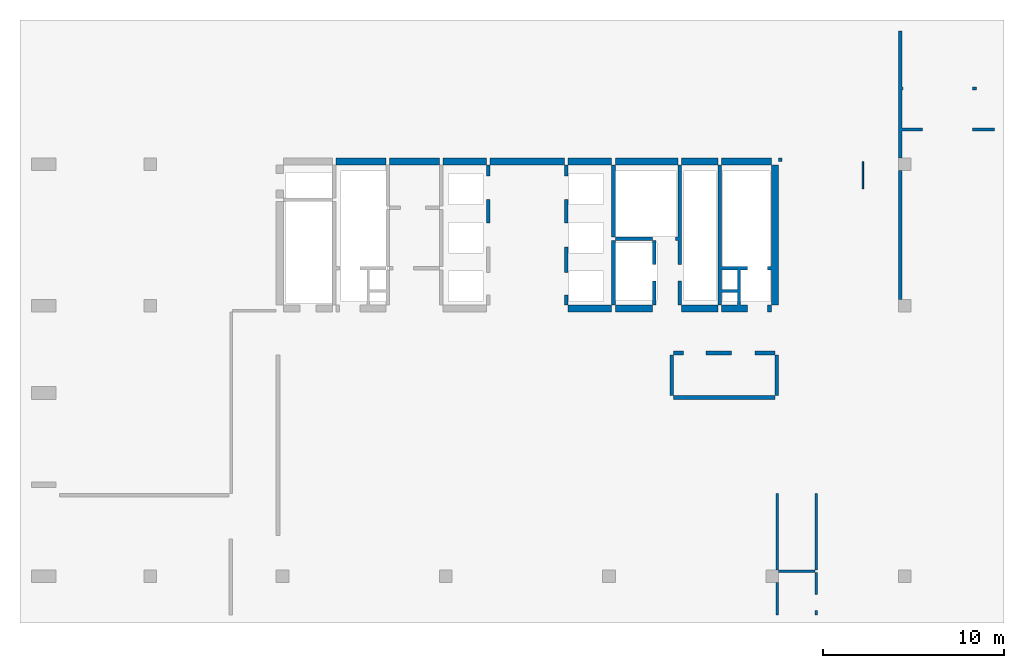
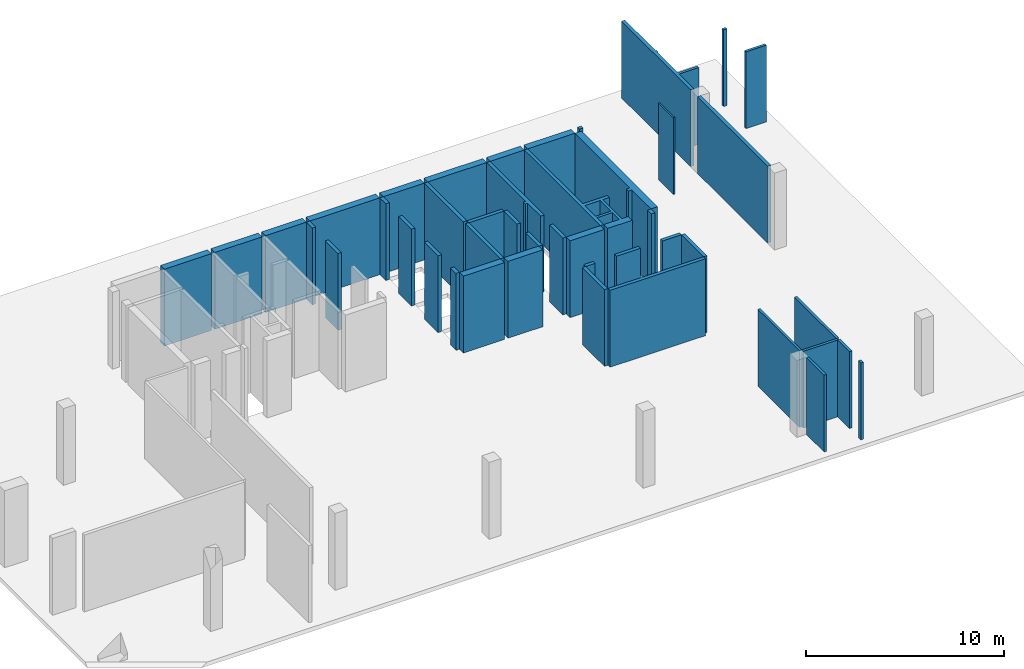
# One storey, part 2 of 2: 45 walls.
"""IFC4 building model written with IfcOpenShell, lengths in millimetres."""

from ifc_helpers import new_model, si_unit, frame, origin, place, context, project, spatial, triangles, element, save


model = new_model("IFC4")

# Units and contexts
model_context = context("Model", 3, precision=0.001, world=origin())
ifc_project = project(units=[si_unit("LENGTHUNIT", "METRE", prefix="MILLI"), si_unit("AREAUNIT", "SQUARE_METRE"), si_unit("VOLUMEUNIT", "CUBIC_METRE")], contexts=[model_context])

# Site, building, storey
site_placement = place(None, origin())
site = spatial("IfcSite", under=ifc_project, at=site_placement, Name="Site", CompositionType="ELEMENT")
building_placement = place(site_placement, origin())
building = spatial("IfcBuilding", under=site, at=building_placement, Name="INNOCEAN", CompositionType="ELEMENT")
storey_placement = place(building_placement, frame((0.0, 0.0, -5000.0)))
storey = spatial("IfcBuildingStorey", under=building, at=storey_placement, Name="B1", CompositionType="ELEMENT", Elevation=-5000.0)

# Walls
wall_1_placement = place(storey_placement, origin())
element("IfcWall", 1, at=wall_1_placement, inside=storey, Name="B1_Walls_B1_019", context=model_context, shape_type="Tessellation", body=[
    triangles([(19183.7, 25025.8, 0.0), (19183.7, 25419.5, 0.0), (19183.7, 25419.5, 4750.0), (19183.7, 25025.8, 4750.0), (16429.3, 25025.8, 4750.0), (16429.3, 25025.8, 0.0), (16429.3, 25419.5, 0.0), (16429.3, 25419.5, 4750.0)], [[1, 2, 3], [1, 3, 4], [1, 4, 5], [6, 1, 5], [7, 6, 5], [7, 5, 8], [7, 8, 3], [2, 7, 3], [7, 2, 1], [7, 1, 6], [3, 8, 4], [4, 8, 5]], closed=True),
])
wall_2_placement = place(storey_placement, origin())
element("IfcWall", 2, at=wall_2_placement, inside=storey, Name="B1_Walls_B1_021", context=model_context, shape_type="Tessellation", body=[
    triangles([(31623.1, 16922.4, 0.0), (31623.1, 17316.1, 0.0), (31623.1, 17316.1, 4750.0), (31623.1, 16922.4, 4750.0), (29224.0, 16922.4, 0.0), (29224.0, 16922.4, 4750.0), (29224.0, 17316.1, 0.0), (29224.0, 17316.1, 4750.0)], [[1, 2, 3], [1, 3, 4], [5, 1, 4], [5, 4, 6], [7, 5, 6], [7, 6, 8], [2, 7, 8], [2, 8, 3], [7, 2, 1], [7, 1, 5], [3, 8, 4], [4, 8, 6]], closed=True),
])
wall_3_placement = place(storey_placement, origin())
element("IfcWall", 3, at=wall_3_placement, inside=storey, Name="B1_Walls_B1_023", context=model_context, shape_type="Tessellation", body=[
    triangles([(29224.0, 17875.0, 0.0), (29224.0, 17875.0, 4750.0), (29224.0, 17316.1, 4750.0), (29224.0, 17316.1, 0.0), (29020.9, 17316.1, 0.0), (29020.9, 17316.1, 4750.0), (29020.9, 17875.0, 4750.0), (29020.9, 17875.0, 0.0)], [[1, 2, 3], [4, 1, 3], [5, 4, 3], [5, 3, 6], [5, 6, 7], [8, 5, 7], [1, 8, 7], [1, 7, 2], [8, 1, 4], [8, 4, 5], [2, 7, 3], [3, 7, 6]], closed=True),
])
wall_4_placement = place(storey_placement, origin())
element("IfcWall", 4, at=wall_4_placement, inside=storey, Name="B1_Walls_B1_028", context=model_context, shape_type="Tessellation", body=[
    triangles([(29020.0, 20515.0, 0.0), (29020.0, 19120.0, 0.0), (29020.0, 19120.0, 4750.0), (29020.0, 20515.0, 4750.0), (29020.9, 20515.0, 0.0), (29020.9, 20515.0, 4750.0), (29020.9, 20516.8, 4750.0), (29020.9, 20516.8, 0.0), (29224.0, 20516.8, 0.0), (29224.0, 20516.8, 4750.0), (29224.0, 20515.0, 4750.0), (29224.0, 20515.0, 0.0), (29225.0, 20515.0, 0.0), (29225.0, 20515.0, 4750.0), (29225.0, 19120.0, 0.0), (29225.0, 19120.0, 4750.0), (29224.0, 19120.0, 0.0), (29224.0, 19120.0, 4750.0), (29224.0, 19119.7, 0.0), (29224.0, 19119.7, 4750.0), (29020.9, 19119.7, 0.0), (29020.9, 19119.7, 4750.0), (29020.9, 19120.0, 0.0), (29020.9, 19120.0, 4750.0)], [[1, 2, 3], [1, 3, 4], [5, 1, 4], [5, 4, 6], [5, 6, 7], [8, 5, 7], [9, 8, 7], [9, 7, 10], [9, 10, 11], [12, 9, 11], [13, 12, 11], [13, 11, 14], [15, 13, 14], [15, 14, 16], [17, 15, 16], [17, 16, 18], [19, 17, 18], [19, 18, 20], [21, 19, 20], [21, 20, 22], [23, 21, 22], [23, 22, 24], [2, 23, 24], [2, 24, 3], [23, 17, 19], [23, 19, 21], [12, 13, 15], [12, 15, 17], [12, 17, 23], [5, 12, 23], [1, 23, 2], [1, 5, 23], [8, 9, 12], [8, 12, 5], [18, 24, 20], [20, 24, 22], [14, 11, 16], [16, 11, 18], [18, 11, 24], [11, 6, 24], [24, 4, 3], [6, 4, 24], [10, 7, 11], [11, 7, 6]], closed=True),
])
wall_5_placement = place(storey_placement, origin())
element("IfcWall", 5, at=wall_5_placement, inside=storey, Name="B1_Walls_B1_030", context=model_context, shape_type="Tessellation", body=[
    triangles([(24920.0, 21825.1, 0.0), (24921.0, 21825.1, 0.0), (24921.0, 21825.1, 4750.0), (24920.0, 21825.1, 4750.0), (24920.0, 21825.0, 0.0), (24920.0, 21825.0, 4750.0), (24730.0, 21825.0, 0.0), (24730.0, 21825.0, 4750.0), (24730.0, 23120.0, 0.0), (24730.0, 23120.0, 4750.0), (24730.6, 23120.0, 0.0), (24730.6, 23120.0, 4750.0), (24730.6, 23120.6, 0.0), (24730.6, 23120.6, 4750.0), (24921.0, 23120.6, 0.0), (24921.0, 23120.6, 4750.0)], [[1, 2, 3], [1, 3, 4], [5, 1, 4], [5, 4, 6], [7, 5, 6], [7, 6, 8], [9, 7, 8], [9, 8, 10], [11, 9, 10], [11, 10, 12], [13, 11, 12], [13, 12, 14], [15, 13, 14], [15, 14, 16], [15, 16, 3], [2, 15, 3], [7, 1, 5], [15, 2, 1], [11, 15, 1], [11, 1, 7], [9, 11, 7], [13, 15, 11], [4, 8, 6], [3, 16, 4], [16, 12, 4], [4, 12, 8], [12, 10, 8], [16, 14, 12]], closed=True),
])
wall_6_placement = place(storey_placement, origin())
element("IfcWall", 6, at=wall_6_placement, inside=storey, Name="B1_Walls_B1_031", context=model_context, shape_type="Tessellation", body=[
    triangles([(29225.0, 21825.0, 0.0), (29225.0, 23120.0, 0.0), (29225.0, 23120.0, 4750.0), (29225.0, 21825.0, 4750.0), (29020.0, 21825.0, 0.0), (29020.0, 21825.0, 4750.0), (29020.0, 23120.0, 0.0), (29020.0, 23120.0, 4750.0), (29020.9, 23120.0, 0.0), (29020.9, 23120.0, 4750.0), (29020.9, 23120.6, 0.0), (29020.9, 23120.6, 4750.0), (29224.0, 23120.6, 0.0), (29224.0, 23120.6, 4750.0), (29224.0, 23120.0, 0.0), (29224.0, 23120.0, 4750.0)], [[1, 2, 3], [1, 3, 4], [5, 1, 4], [5, 4, 6], [7, 5, 6], [7, 6, 8], [9, 7, 8], [9, 8, 10], [11, 9, 10], [11, 10, 12], [13, 11, 12], [13, 12, 14], [15, 13, 14], [15, 14, 16], [2, 15, 16], [2, 16, 3], [15, 2, 1], [15, 1, 5], [9, 15, 5], [11, 13, 15], [11, 15, 9], [7, 9, 5], [3, 16, 4], [4, 16, 6], [16, 10, 6], [14, 12, 16], [16, 12, 10], [10, 8, 6]], closed=True),
])
wall_7_placement = place(storey_placement, origin())
element("IfcWall", 7, at=wall_7_placement, inside=storey, Name="B1_Walls_B1_036", context=model_context, shape_type="Tessellation", body=[
    triangles([(24921.0, 24416.1, 0.0), (24921.0, 25025.8, 0.0), (24921.0, 25025.8, 4750.0), (24921.0, 24416.1, 4750.0), (24730.6, 24416.1, 0.0), (24730.6, 24416.1, 4750.0), (24730.6, 25025.8, 0.0), (24730.6, 25025.8, 4750.0)], [[1, 2, 3], [1, 3, 4], [5, 1, 4], [5, 4, 6], [7, 5, 6], [7, 6, 8], [2, 7, 8], [2, 8, 3], [7, 2, 1], [7, 1, 5], [3, 8, 4], [4, 8, 6]], closed=True),
])
wall_8_placement = place(storey_placement, origin())
element("IfcWall", 8, at=wall_8_placement, inside=storey, Name="B1_Walls_B1_037", context=model_context, shape_type="Tessellation", body=[
    triangles([(29224.0, 24416.1, 0.0), (29224.0, 25025.8, 0.0), (29224.0, 25025.8, 4750.0), (29224.0, 24416.1, 4750.0), (29020.9, 24416.1, 0.0), (29020.9, 24416.1, 4750.0), (29020.9, 25025.8, 0.0), (29020.9, 25025.8, 4750.0)], [[1, 2, 3], [1, 3, 4], [5, 1, 4], [5, 4, 6], [7, 5, 6], [7, 6, 8], [2, 7, 8], [2, 8, 3], [7, 2, 1], [7, 1, 5], [3, 8, 4], [4, 8, 6]], closed=True),
])
wall_9_placement = place(storey_placement, origin())
element("IfcWall", 9, at=wall_9_placement, inside=storey, Name="B1_Walls_B1_038", context=model_context, shape_type="Tessellation", body=[
    triangles([(22128.5, 25025.8, 0.0), (22128.5, 25419.5, 0.0), (22128.5, 25419.5, 4750.0), (22128.5, 25025.8, 4750.0), (19374.1, 25025.8, 4750.0), (19374.1, 25025.8, 0.0), (19374.1, 25419.5, 0.0), (19374.1, 25419.5, 4750.0)], [[1, 2, 3], [1, 3, 4], [1, 4, 5], [6, 1, 5], [7, 6, 5], [7, 5, 8], [7, 8, 3], [2, 7, 3], [7, 2, 1], [7, 1, 6], [3, 8, 4], [4, 8, 5]], closed=True),
])
wall_10_placement = place(storey_placement, origin())
element("IfcWall", 10, at=wall_10_placement, inside=storey, Name="B1_Walls_B1_039", context=model_context, shape_type="Tessellation", body=[
    triangles([(24730.6, 25025.8, 0.0), (24730.6, 25419.5, 0.0), (24730.6, 25419.5, 4750.0), (24730.6, 25025.8, 4750.0), (22331.6, 25025.8, 0.0), (22331.6, 25025.8, 4750.0), (22331.6, 25419.5, 0.0), (22331.6, 25419.5, 4750.0)], [[1, 2, 3], [1, 3, 4], [5, 1, 4], [5, 4, 6], [7, 5, 6], [7, 6, 8], [2, 7, 8], [2, 8, 3], [7, 2, 1], [7, 1, 5], [3, 8, 4], [4, 8, 6]], closed=True),
])
wall_11_placement = place(storey_placement, origin())
element("IfcWall", 11, at=wall_11_placement, inside=storey, Name="B1_Walls_B1_040", context=model_context, shape_type="Tessellation", body=[
    triangles([(29020.9, 25025.8, 0.0), (29020.9, 25419.5, 0.0), (29020.9, 25419.5, 4750.0), (29020.9, 25025.8, 4750.0), (24921.0, 25025.8, 0.0), (24921.0, 25025.8, 4750.0), (24921.0, 25419.5, 0.0), (24921.0, 25419.5, 4750.0)], [[1, 2, 3], [1, 3, 4], [5, 1, 4], [5, 4, 6], [7, 5, 6], [7, 6, 8], [2, 7, 8], [2, 8, 3], [7, 2, 1], [7, 1, 5], [3, 8, 4], [4, 8, 6]], closed=True),
])
wall_12_placement = place(storey_placement, origin())
element("IfcWall", 12, at=wall_12_placement, inside=storey, Name="B1_Walls_B1_041", context=model_context, shape_type="Tessellation", body=[
    triangles([(31623.1, 25025.8, 0.0), (31623.1, 25419.5, 0.0), (31623.1, 25419.5, 4750.0), (31623.1, 25025.8, 4750.0), (29224.0, 25025.8, 0.0), (29224.0, 25025.8, 4750.0), (29224.0, 25419.5, 0.0), (29224.0, 25419.5, 4750.0)], [[1, 2, 3], [1, 3, 4], [5, 1, 4], [5, 4, 6], [7, 5, 6], [7, 6, 8], [2, 7, 8], [2, 8, 3], [7, 2, 1], [7, 1, 5], [3, 8, 4], [4, 8, 6]], closed=True),
])
wall_13_placement = place(storey_placement, origin())
element("IfcWall", 13, at=wall_13_placement, inside=storey, Name="B1_Walls_B1_042", context=model_context, shape_type="Tessellation", body=[
    triangles([(35024.8, 12121.3, 0.0), (40622.6, 12121.3, 0.0), (40622.6, 12121.3, 4750.0), (35024.8, 12121.3, 4750.0), (35024.8, 12324.5, 4750.0), (35024.8, 12324.5, 0.0), (40622.6, 12324.5, 0.0), (40622.6, 12324.5, 4750.0)], [[1, 2, 3], [1, 3, 4], [1, 4, 5], [6, 1, 5], [7, 6, 5], [7, 5, 8], [7, 8, 3], [2, 7, 3], [6, 2, 1], [6, 7, 2], [3, 5, 4], [8, 5, 3]], closed=True),
])
wall_14_placement = place(storey_placement, origin())
element("IfcWall", 14, at=wall_14_placement, inside=storey, Name="B1_Walls_B1_043", context=model_context, shape_type="Tessellation", body=[
    triangles([(35024.8, 14572.6, 0.0), (34821.8, 14572.6, 0.0), (34821.8, 14572.6, 4750.0), (35024.8, 14572.6, 4750.0), (35024.8, 12324.5, 0.0), (35024.8, 12324.5, 4750.0), (34821.8, 12324.5, 0.0), (34821.8, 12324.5, 4750.0)], [[1, 2, 3], [1, 3, 4], [5, 1, 4], [5, 4, 6], [7, 5, 6], [7, 6, 8], [2, 7, 8], [2, 8, 3], [2, 1, 5], [2, 5, 7], [4, 3, 6], [6, 3, 8]], closed=True),
])
wall_15_placement = place(storey_placement, origin())
element("IfcWall", 15, at=wall_15_placement, inside=storey, Name="B1_Walls_B1_044", context=model_context, shape_type="Tessellation", body=[
    triangles([(35570.7, 14775.8, 0.0), (35024.8, 14775.8, 0.0), (35024.8, 14775.8, 4750.0), (35570.7, 14775.8, 4750.0), (35570.7, 14572.6, 0.0), (35570.7, 14572.6, 4750.0), (35024.8, 14572.6, 0.0), (35024.8, 14572.6, 4750.0)], [[1, 2, 3], [1, 3, 4], [5, 1, 4], [5, 4, 6], [7, 5, 6], [7, 6, 8], [2, 7, 8], [2, 8, 3], [2, 1, 5], [2, 5, 7], [4, 3, 6], [6, 3, 8]], closed=True),
])
wall_16_placement = place(storey_placement, origin())
element("IfcWall", 16, at=wall_16_placement, inside=storey, Name="B1_Walls_B1_045", context=model_context, shape_type="Tessellation", body=[
    triangles([(38223.5, 14575.0, 0.0), (38225.0, 14575.0, 0.0), (38225.0, 14575.0, 4750.0), (38223.5, 14575.0, 4750.0), (38223.5, 14572.6, 4750.0), (38223.5, 14572.6, 0.0), (36814.6, 14572.6, 0.0), (36814.6, 14572.6, 4750.0), (36814.6, 14775.8, 0.0), (36814.6, 14775.8, 4750.0), (38223.5, 14775.8, 0.0), (38223.5, 14775.8, 4750.0), (38223.5, 14775.0, 0.0), (38223.5, 14775.0, 4750.0), (38225.0, 14775.0, 0.0), (38225.0, 14775.0, 4750.0)], [[1, 2, 3], [1, 3, 4], [1, 4, 5], [6, 1, 5], [7, 6, 5], [7, 5, 8], [9, 7, 8], [9, 8, 10], [11, 9, 10], [11, 10, 12], [13, 11, 12], [13, 12, 14], [15, 13, 14], [15, 14, 16], [2, 15, 16], [2, 16, 3], [13, 2, 1], [13, 15, 2], [7, 1, 6], [9, 11, 13], [9, 13, 1], [9, 1, 7], [3, 14, 4], [16, 14, 3], [4, 8, 5], [12, 10, 14], [14, 10, 4], [4, 10, 8]], closed=True),
])
wall_17_placement = place(storey_placement, origin())
element("IfcWall", 17, at=wall_17_placement, inside=storey, Name="B1_Walls_B1_046", context=model_context, shape_type="Tessellation", body=[
    triangles([(33869.8, 17316.1, 0.0), (31826.2, 17316.1, 0.0), (31826.2, 17316.1, 4750.0), (33869.8, 17316.1, 4750.0), (33869.8, 16922.4, 0.0), (33869.8, 16922.4, 4750.0), (31826.2, 16922.4, 0.0), (31826.2, 16922.4, 4750.0)], [[1, 2, 3], [1, 3, 4], [5, 1, 4], [5, 4, 6], [7, 5, 6], [7, 6, 8], [2, 7, 8], [2, 8, 3], [2, 1, 5], [2, 5, 7], [4, 3, 6], [6, 3, 8]], closed=True),
])
wall_18_placement = place(storey_placement, origin())
element("IfcWall", 18, at=wall_18_placement, inside=storey, Name="B1_Walls_B1_047", context=model_context, shape_type="Tessellation", body=[
    triangles([(37474.6, 16922.4, 0.0), (37474.6, 17316.1, 0.0), (37474.6, 17316.1, 4750.0), (37474.6, 16922.4, 4750.0), (35469.1, 16922.4, 0.0), (35469.1, 16922.4, 4750.0), (35469.1, 17316.1, 0.0), (35469.1, 17316.1, 4750.0)], [[1, 2, 3], [1, 3, 4], [5, 1, 4], [5, 4, 6], [7, 5, 6], [7, 6, 8], [2, 7, 8], [2, 8, 3], [7, 2, 1], [7, 1, 5], [3, 8, 4], [4, 8, 6]], closed=True),
])
wall_19_placement = place(storey_placement, origin())
element("IfcWall", 19, at=wall_19_placement, inside=storey, Name="B1_Walls_B1_048", context=model_context, shape_type="Tessellation", body=[
    triangles([(37665.0, 17316.1, 0.0), (37665.0, 16922.4, 0.0), (37665.0, 16922.4, 4750.0), (37665.0, 17316.1, 4750.0), (39099.4, 16922.4, 0.0), (39099.4, 16922.4, 4750.0), (39099.4, 17316.1, 0.0), (39099.4, 17316.1, 4750.0), (38720.0, 17316.1, 0.0), (38720.0, 17316.1, 4750.0), (38720.0, 19245.0, 0.0), (38720.0, 19245.0, 4750.0), (39100.0, 19245.0, 0.0), (39100.0, 19245.0, 4750.0), (39100.0, 19450.0, 0.0), (39100.0, 19450.0, 4750.0), (37665.0, 19450.0, 0.0), (37665.0, 19450.0, 4750.0), (37665.0, 25025.8, 0.0), (37665.0, 25025.8, 4750.0), (37474.6, 25025.8, 0.0), (37474.6, 25025.8, 4750.0), (37474.6, 19449.9, 0.0), (37474.6, 19449.9, 4750.0), (37474.6, 17316.1, 0.0), (37474.6, 17316.1, 4750.0), (37665.0, 18014.7, 0.0), (37665.0, 18014.7, 4750.0), (38565.0, 18014.7, 0.0), (38565.0, 18014.7, 4750.0), (38565.0, 17316.1, 0.0), (38565.0, 17316.1, 4750.0), (37665.0, 18167.1, 0.0), (37665.0, 19245.0, 0.0), (37665.0, 19245.0, 4750.0), (37665.0, 18167.1, 4750.0), (38565.0, 19245.0, 0.0), (38565.0, 19245.0, 4750.0), (38565.0, 18167.1, 0.0), (38565.0, 18167.1, 4750.0)], [[1, 2, 3], [1, 3, 4], [2, 5, 6], [2, 6, 3], [5, 7, 8], [5, 8, 6], [7, 9, 10], [7, 10, 8], [11, 12, 10], [9, 11, 10], [11, 13, 14], [11, 14, 12], [13, 15, 16], [13, 16, 14], [17, 18, 16], [15, 17, 16], [17, 19, 20], [17, 20, 18], [19, 21, 22], [19, 22, 20], [21, 23, 24], [21, 24, 22], [23, 25, 26], [23, 26, 24], [25, 1, 4], [25, 4, 26], [1, 27, 28], [1, 28, 4], [27, 29, 30], [27, 30, 28], [29, 31, 32], [29, 32, 30], [31, 1, 4], [31, 4, 32], [33, 34, 35], [33, 35, 36], [34, 37, 38], [34, 38, 35], [37, 39, 40], [37, 40, 38], [39, 33, 36], [39, 36, 40], [9, 7, 5], [31, 9, 5], [2, 31, 5], [29, 9, 31], [1, 31, 2], [27, 1, 25], [33, 29, 27], [33, 39, 29], [33, 27, 25], [11, 15, 13], [37, 11, 39], [37, 15, 11], [17, 37, 34], [17, 15, 37], [23, 34, 33], [23, 17, 34], [23, 33, 25], [21, 19, 17], [21, 17, 23], [11, 9, 29], [11, 29, 39], [8, 10, 6], [10, 32, 6], [32, 3, 6], [10, 30, 32], [32, 4, 3], [4, 28, 26], [30, 36, 28], [40, 36, 30], [28, 36, 26], [16, 12, 14], [12, 38, 40], [16, 38, 12], [38, 18, 35], [16, 18, 38], [35, 24, 36], [18, 24, 35], [36, 24, 26], [20, 22, 18], [18, 22, 24], [10, 12, 30], [30, 12, 40]], closed=True),
])
wall_20_placement = place(storey_placement, origin())
element("IfcWall", 20, at=wall_20_placement, inside=storey, Name="B1_Walls_B1_049", context=model_context, shape_type="Tessellation", body=[
    triangles([(34072.9, 18649.7, 0.0), (34072.9, 18649.7, 4750.0), (34072.9, 17316.1, 4750.0), (34072.9, 17316.1, 0.0), (33869.8, 17316.1, 0.0), (33869.8, 17316.1, 4750.0), (33869.8, 18649.7, 4750.0), (33869.8, 18649.7, 0.0)], [[1, 2, 3], [4, 1, 3], [5, 4, 3], [5, 3, 6], [5, 6, 7], [8, 5, 7], [1, 8, 7], [1, 7, 2], [8, 1, 4], [8, 4, 5], [2, 7, 3], [3, 7, 6]], closed=True),
])
wall_21_placement = place(storey_placement, origin())
element("IfcWall", 21, at=wall_21_placement, inside=storey, Name="B1_Walls_B1_050", context=model_context, shape_type="Tessellation", body=[
    triangles([(35469.1, 18649.7, 0.0), (35469.1, 18649.7, 4750.0), (35469.1, 17316.1, 4750.0), (35469.1, 17316.1, 0.0), (35266.0, 17316.1, 0.0), (35266.0, 17316.1, 4750.0), (35266.0, 18649.7, 4750.0), (35266.0, 18649.7, 0.0)], [[1, 2, 3], [4, 1, 3], [5, 4, 3], [5, 3, 6], [5, 6, 7], [8, 5, 7], [1, 8, 7], [1, 7, 2], [8, 1, 4], [8, 4, 5], [2, 7, 3], [3, 7, 6]], closed=True),
])
wall_22_placement = place(storey_placement, origin())
element("IfcWall", 22, at=wall_22_placement, inside=storey, Name="B1_Walls_B1_051", context=model_context, shape_type="Tessellation", body=[
    triangles([(31826.2, 17316.1, 0.0), (31826.2, 20872.5, 0.0), (31826.2, 20872.5, 4750.0), (31826.2, 17316.1, 4750.0), (31623.1, 17316.1, 0.0), (31623.1, 17316.1, 4750.0), (31623.1, 20872.5, 0.0), (31623.1, 20872.5, 4750.0)], [[1, 2, 3], [1, 3, 4], [5, 1, 4], [5, 4, 6], [7, 5, 6], [7, 6, 8], [2, 7, 8], [2, 8, 3], [7, 2, 1], [7, 1, 5], [3, 8, 4], [4, 8, 6]], closed=True),
])
wall_23_placement = place(storey_placement, origin())
element("IfcWall", 23, at=wall_23_placement, inside=storey, Name="B1_Walls_B1_052", context=model_context, shape_type="Tessellation", body=[
    triangles([(34072.9, 20872.5, 0.0), (34072.9, 20872.5, 4750.0), (34072.9, 19551.5, 4750.0), (34072.9, 19551.5, 0.0), (33869.8, 19551.5, 0.0), (33869.8, 19551.5, 4750.0), (33869.8, 20872.5, 4750.0), (33869.8, 20872.5, 0.0)], [[1, 2, 3], [4, 1, 3], [5, 4, 3], [5, 3, 6], [5, 6, 7], [8, 5, 7], [1, 8, 7], [1, 7, 2], [8, 1, 4], [8, 4, 5], [2, 7, 3], [3, 7, 6]], closed=True),
])
wall_24_placement = place(storey_placement, origin())
element("IfcWall", 24, at=wall_24_placement, inside=storey, Name="B1_Walls_B1_053", context=model_context, shape_type="Tessellation", body=[
    triangles([(35126.4, 20872.5, 0.0), (35126.4, 20872.5, 4750.0), (35126.4, 21075.7, 4750.0), (35126.4, 21075.7, 0.0), (35266.0, 21075.7, 0.0), (35266.0, 21075.7, 4750.0), (35266.0, 25025.8, 0.0), (35266.0, 25025.8, 4750.0), (35469.1, 25025.8, 0.0), (35469.1, 25025.8, 4750.0), (35469.1, 21075.7, 0.0), (35469.1, 21075.7, 4750.0), (35469.1, 20872.5, 4750.0), (35469.1, 20872.5, 0.0), (35469.1, 19551.5, 4750.0), (35469.1, 19551.5, 0.0), (35266.0, 19551.5, 0.0), (35266.0, 19551.5, 4750.0), (35266.0, 20872.5, 4750.0), (35266.0, 20872.5, 0.0)], [[1, 2, 3], [4, 1, 3], [5, 4, 3], [5, 3, 6], [7, 5, 6], [7, 6, 8], [9, 7, 8], [9, 8, 10], [11, 9, 10], [11, 10, 12], [11, 12, 13], [14, 11, 13], [14, 13, 15], [16, 14, 15], [17, 16, 15], [17, 15, 18], [17, 18, 19], [20, 17, 19], [1, 20, 19], [1, 19, 2], [20, 14, 16], [20, 16, 17], [11, 14, 20], [5, 11, 20], [4, 20, 1], [4, 5, 20], [7, 9, 11], [7, 11, 5], [13, 19, 15], [15, 19, 18], [13, 12, 19], [12, 6, 19], [19, 3, 2], [6, 3, 19], [10, 8, 12], [12, 8, 6]], closed=True),
])
wall_25_placement = place(storey_placement, origin())
element("IfcWall", 25, at=wall_25_placement, inside=storey, Name="B1_Walls_B1_054", context=model_context, shape_type="Tessellation", body=[
    triangles([(33869.8, 21075.7, 0.0), (31826.2, 21075.7, 0.0), (31826.2, 21075.7, 4750.0), (33869.8, 21075.7, 4750.0), (33869.8, 20872.5, 4750.0), (33869.8, 20872.5, 0.0), (31826.2, 20872.5, 0.0), (31826.2, 20872.5, 4750.0)], [[1, 2, 3], [1, 3, 4], [1, 4, 5], [6, 1, 5], [7, 6, 5], [7, 5, 8], [7, 8, 3], [2, 7, 3], [2, 1, 6], [2, 6, 7], [4, 3, 5], [5, 3, 8]], closed=True),
])
wall_26_placement = place(storey_placement, origin())
element("IfcWall", 26, at=wall_26_placement, inside=storey, Name="B1_Walls_B1_055", context=model_context, shape_type="Tessellation", body=[
    triangles([(31826.2, 21075.7, 0.0), (31826.2, 25025.8, 0.0), (31826.2, 25025.8, 4750.0), (31826.2, 21075.7, 4750.0), (31623.1, 21075.7, 0.0), (31623.1, 21075.7, 4750.0), (31623.1, 25025.8, 0.0), (31623.1, 25025.8, 4750.0)], [[1, 2, 3], [1, 3, 4], [5, 1, 4], [5, 4, 6], [7, 5, 6], [7, 6, 8], [2, 7, 8], [2, 8, 3], [2, 1, 5], [7, 2, 5], [4, 3, 6], [3, 8, 6]], closed=True),
])
wall_27_placement = place(storey_placement, origin())
element("IfcWall", 27, at=wall_27_placement, inside=storey, Name="B1_Walls_B1_056", context=model_context, shape_type="Tessellation", body=[
    triangles([(35266.0, 25025.8, 0.0), (35266.0, 25419.5, 0.0), (35266.0, 25419.5, 4750.0), (35266.0, 25025.8, 4750.0), (31826.2, 25025.8, 0.0), (31826.2, 25025.8, 4750.0), (31826.2, 25419.5, 0.0), (31826.2, 25419.5, 4750.0)], [[1, 2, 3], [1, 3, 4], [5, 1, 4], [5, 4, 6], [7, 5, 6], [7, 6, 8], [2, 7, 8], [2, 8, 3], [7, 2, 1], [7, 1, 5], [3, 8, 4], [4, 8, 6]], closed=True),
])
wall_28_placement = place(storey_placement, origin())
element("IfcWall", 28, at=wall_28_placement, inside=storey, Name="B1_Walls_B1_057", context=model_context, shape_type="Tessellation", body=[
    triangles([(37474.6, 25025.8, 0.0), (37474.6, 25419.5, 0.0), (37474.6, 25419.5, 4750.0), (37474.6, 25025.8, 4750.0), (35469.1, 25025.8, 0.0), (35469.1, 25025.8, 4750.0), (35469.1, 25419.5, 0.0), (35469.1, 25419.5, 4750.0)], [[1, 2, 3], [1, 3, 4], [5, 1, 4], [5, 4, 6], [7, 5, 6], [7, 6, 8], [2, 7, 8], [2, 8, 3], [7, 2, 1], [7, 1, 5], [3, 8, 4], [4, 8, 6]], closed=True),
])
wall_29_placement = place(storey_placement, origin())
element("IfcWall", 29, at=wall_29_placement, inside=storey, Name="B1_Walls_B1_058", context=model_context, shape_type="Tessellation", body=[
    triangles([(42970.8, 474.2, 0.0), (42818.5, 474.2, 0.0), (42818.5, 474.2, 4750.0), (42970.8, 474.2, 4750.0), (42970.8, 220.2, 0.0), (42970.8, 220.2, 4750.0), (42818.5, 220.2, 0.0), (42818.5, 220.2, 4750.0)], [[1, 2, 3], [1, 3, 4], [5, 1, 4], [5, 4, 6], [7, 5, 6], [7, 6, 8], [2, 7, 8], [2, 8, 3], [1, 5, 7], [2, 1, 7], [6, 4, 8], [4, 3, 8]], closed=True),
])
wall_30_placement = place(storey_placement, origin())
element("IfcWall", 30, at=wall_30_placement, inside=storey, Name="B1_Walls_B1_059", context=model_context, shape_type="Tessellation", body=[
    triangles([(40813.0, 220.2, 0.0), (40813.0, 2023.7, 0.0), (40813.0, 2023.7, 4750.0), (40813.0, 220.2, 4750.0), (40673.3, 220.2, 0.0), (40673.3, 220.2, 4750.0), (40673.3, 2023.7, 0.0), (40673.3, 2023.7, 4750.0)], [[1, 2, 3], [1, 3, 4], [5, 1, 4], [5, 4, 6], [7, 5, 6], [7, 6, 8], [2, 7, 8], [2, 8, 3], [7, 2, 1], [7, 1, 5], [3, 8, 4], [4, 8, 6]], closed=True),
])
wall_31_placement = place(storey_placement, origin())
element("IfcWall", 31, at=wall_31_placement, inside=storey, Name="B1_Walls_B1_060", context=model_context, shape_type="Tessellation", body=[
    triangles([(42970.8, 1376.0, 0.0), (42970.8, 2569.9, 0.0), (42970.8, 2569.9, 4750.0), (42970.8, 1376.0, 4750.0), (42818.5, 1376.0, 0.0), (42818.5, 1376.0, 4750.0), (42818.5, 2569.9, 0.0), (42818.5, 2569.9, 4750.0)], [[1, 2, 3], [1, 3, 4], [5, 1, 4], [5, 4, 6], [7, 5, 6], [7, 6, 8], [2, 7, 8], [2, 8, 3], [7, 2, 1], [7, 1, 5], [3, 8, 4], [4, 8, 6]], closed=True),
])
wall_32_placement = place(storey_placement, origin())
element("IfcWall", 32, at=wall_32_placement, inside=storey, Name="B1_Walls_B1_061", context=model_context, shape_type="Tessellation", body=[
    triangles([(40813.0, 2722.3, 0.0), (40813.0, 2569.9, 0.0), (40813.0, 2569.9, 4750.0), (40813.0, 2722.3, 4750.0), (42818.5, 2722.3, 0.0), (42818.5, 2722.3, 4750.0), (42818.5, 2569.9, 0.0), (42818.5, 2569.9, 4750.0)], [[1, 2, 3], [1, 3, 4], [5, 1, 4], [5, 4, 6], [7, 5, 6], [7, 6, 8], [2, 7, 8], [2, 8, 3], [2, 5, 7], [1, 5, 2], [6, 3, 8], [6, 4, 3]], closed=True),
])
wall_33_placement = place(storey_placement, origin())
element("IfcWall", 33, at=wall_33_placement, inside=storey, Name="B1_Walls_B1_062", context=model_context, shape_type="Tessellation", body=[
    triangles([(40813.0, 2722.3, 0.0), (40813.0, 6939.1, 0.0), (40813.0, 6939.1, 4750.0), (40813.0, 2722.3, 4750.0), (40673.3, 2722.3, 0.0), (40673.3, 2722.3, 4750.0), (40673.3, 6939.1, 0.0), (40673.3, 6939.1, 4750.0)], [[1, 2, 3], [1, 3, 4], [5, 1, 4], [5, 4, 6], [7, 5, 6], [7, 6, 8], [2, 7, 8], [2, 8, 3], [7, 2, 1], [7, 1, 5], [3, 8, 4], [4, 8, 6]], closed=True),
])
wall_34_placement = place(storey_placement, origin())
element("IfcWall", 34, at=wall_34_placement, inside=storey, Name="B1_Walls_B1_063", context=model_context, shape_type="Tessellation", body=[
    triangles([(42970.8, 2722.3, 0.0), (42970.8, 6939.1, 0.0), (42970.8, 6939.1, 4750.0), (42970.8, 2722.3, 4750.0), (42818.5, 2722.3, 0.0), (42818.5, 2722.3, 4750.0), (42818.5, 6939.1, 0.0), (42818.5, 6939.1, 4750.0)], [[1, 2, 3], [1, 3, 4], [5, 1, 4], [5, 4, 6], [7, 5, 6], [7, 6, 8], [2, 7, 8], [2, 8, 3], [7, 2, 1], [7, 1, 5], [3, 8, 4], [4, 8, 6]], closed=True),
])
wall_35_placement = place(storey_placement, origin())
element("IfcWall", 35, at=wall_35_placement, inside=storey, Name="B1_Walls_B1_064", context=model_context, shape_type="Tessellation", body=[
    triangles([(40813.0, 12324.5, 0.0), (40813.0, 14572.6, 0.0), (40813.0, 14572.6, 4750.0), (40813.0, 12324.5, 4750.0), (40622.6, 12324.5, 0.0), (40622.6, 12324.5, 4750.0), (40622.6, 14572.6, 0.0), (40622.6, 14572.6, 4750.0)], [[1, 2, 3], [1, 3, 4], [5, 1, 4], [5, 4, 6], [7, 5, 6], [7, 6, 8], [2, 7, 8], [2, 8, 3], [2, 1, 5], [7, 2, 5], [4, 3, 6], [3, 8, 6]], closed=True),
])
wall_36_placement = place(storey_placement, origin())
element("IfcWall", 36, at=wall_36_placement, inside=storey, Name="B1_Walls_B1_065", context=model_context, shape_type="Tessellation", body=[
    triangles([(40622.6, 14775.8, 0.0), (39518.2, 14775.8, 0.0), (39518.2, 14775.8, 4750.0), (40622.6, 14775.8, 4750.0), (40622.6, 14572.6, 0.0), (40622.6, 14572.6, 4750.0), (39518.2, 14572.6, 0.0), (39518.2, 14572.6, 4750.0)], [[1, 2, 3], [1, 3, 4], [5, 1, 4], [5, 4, 6], [7, 5, 6], [7, 6, 8], [2, 7, 8], [2, 8, 3], [2, 1, 5], [2, 5, 7], [4, 3, 6], [6, 3, 8]], closed=True),
])
wall_37_placement = place(storey_placement, origin())
element("IfcWall", 37, at=wall_37_placement, inside=storey, Name="B1_Walls_B1_066", context=model_context, shape_type="Tessellation", body=[
    triangles([(40419.5, 16922.4, 0.0), (40419.5, 17316.1, 0.0), (40419.5, 17316.1, 4750.0), (40419.5, 16922.4, 4750.0), (40216.4, 16922.4, 0.0), (40216.4, 16922.4, 4750.0), (40216.4, 17316.1, 0.0), (40216.4, 17316.1, 4750.0)], [[1, 2, 3], [1, 3, 4], [5, 1, 4], [5, 4, 6], [7, 5, 6], [7, 6, 8], [2, 7, 8], [2, 8, 3], [7, 2, 1], [7, 1, 5], [3, 8, 4], [4, 8, 6]], closed=True),
])
wall_38_placement = place(storey_placement, origin())
element("IfcWall", 38, at=wall_38_placement, inside=storey, Name="B1_Walls_B1_067", context=model_context, shape_type="Tessellation", body=[
    triangles([(40419.5, 25025.8, 0.0), (40419.5, 19450.0, 0.0), (40419.5, 19450.0, 4750.0), (40419.5, 25025.8, 4750.0), (40813.0, 25025.8, 0.0), (40813.0, 25025.8, 4750.0), (40813.0, 19449.9, 0.0), (40813.0, 19449.9, 4750.0), (40813.0, 17316.1, 0.0), (40813.0, 17316.1, 4750.0), (40419.5, 17316.1, 0.0), (40419.5, 17316.1, 4750.0), (40419.5, 19245.0, 4750.0), (40419.5, 19245.0, 0.0), (40215.0, 19245.0, 0.0), (40215.0, 19245.0, 4750.0), (40215.0, 19450.0, 0.0), (40215.0, 19450.0, 4750.0)], [[1, 2, 3], [1, 3, 4], [5, 1, 4], [5, 4, 6], [7, 5, 6], [7, 6, 8], [9, 7, 8], [9, 8, 10], [11, 9, 10], [11, 10, 12], [11, 12, 13], [14, 11, 13], [15, 14, 13], [15, 13, 16], [17, 15, 16], [17, 16, 18], [2, 17, 18], [2, 18, 3], [14, 7, 9], [14, 9, 11], [2, 7, 14], [17, 14, 15], [17, 2, 14], [5, 7, 2], [1, 5, 2], [8, 13, 10], [10, 13, 12], [8, 3, 13], [13, 18, 16], [3, 18, 13], [8, 6, 3], [6, 4, 3]], closed=True),
])
wall_39_placement = place(storey_placement, origin())
element("IfcWall", 39, at=wall_39_placement, inside=storey, Name="B1_Walls_B1_068", context=model_context, shape_type="Tessellation", body=[
    triangles([(47616.5, 17620.9, 0.0), (47616.5, 24721.0, 0.0), (47616.5, 24721.0, 4750.0), (47616.5, 17620.9, 4750.0), (47413.4, 17620.9, 0.0), (47413.4, 17620.9, 4750.0), (47413.4, 24721.0, 0.0), (47413.4, 24721.0, 4750.0)], [[1, 2, 3], [1, 3, 4], [5, 1, 4], [5, 4, 6], [7, 5, 6], [7, 6, 8], [2, 7, 8], [2, 8, 3], [7, 2, 1], [7, 1, 5], [3, 8, 4], [4, 8, 6]], closed=True),
])
wall_40_placement = place(storey_placement, origin())
element("IfcWall", 40, at=wall_40_placement, inside=storey, Name="B1_Walls_B1_069", context=model_context, shape_type="Tessellation", body=[
    triangles([(45509.4, 23717.6, 0.0), (45509.4, 25216.3, 0.0), (45509.4, 25216.3, 4750.0), (45509.4, 23717.6, 4750.0), (45420.6, 23717.6, 4750.0), (45420.6, 23717.6, 0.0), (45420.6, 25216.3, 0.0), (45420.6, 25216.3, 4750.0)], [[1, 2, 3], [1, 3, 4], [1, 4, 5], [6, 1, 5], [7, 6, 5], [7, 5, 8], [7, 8, 3], [2, 7, 3], [7, 2, 1], [7, 1, 6], [3, 8, 4], [4, 8, 5]], closed=True),
])
wall_41_placement = place(storey_placement, origin())
element("IfcWall", 41, at=wall_41_placement, inside=storey, Name="B1_Walls_B1_070", context=model_context, shape_type="Tessellation", body=[
    triangles([(40419.5, 25025.8, 0.0), (40419.5, 25419.5, 0.0), (40419.5, 25419.5, 4750.0), (40419.5, 25025.8, 4750.0), (37665.0, 25025.8, 0.0), (37665.0, 25025.8, 4750.0), (37665.0, 25419.5, 0.0), (37665.0, 25419.5, 4750.0)], [[1, 2, 3], [1, 3, 4], [5, 1, 4], [5, 4, 6], [7, 5, 6], [7, 6, 8], [2, 7, 8], [2, 8, 3], [7, 2, 1], [7, 1, 5], [3, 8, 4], [4, 8, 6]], closed=True),
])
wall_42_placement = place(storey_placement, origin())
element("IfcWall", 42, at=wall_42_placement, inside=storey, Name="B1_Walls_B1_071", context=model_context, shape_type="Tessellation", body=[
    triangles([(40815.0, 25419.5, 0.0), (40813.0, 25419.5, 0.0), (40813.0, 25419.5, 4750.0), (40815.0, 25419.5, 4750.0), (40815.0, 25420.0, 4750.0), (40815.0, 25420.0, 0.0), (41015.0, 25420.0, 0.0), (41015.0, 25420.0, 4750.0), (41015.0, 25419.5, 4750.0), (41015.0, 25419.5, 0.0), (41016.0, 25419.5, 0.0), (41016.0, 25419.5, 4750.0), (41016.0, 25216.3, 4750.0), (41016.0, 25216.3, 0.0), (41015.0, 25216.3, 0.0), (41015.0, 25216.3, 4750.0), (41015.0, 25215.0, 0.0), (41015.0, 25215.0, 4750.0), (40815.0, 25215.0, 0.0), (40815.0, 25215.0, 4750.0), (40815.0, 25216.3, 0.0), (40815.0, 25216.3, 4750.0), (40813.0, 25216.3, 0.0), (40813.0, 25216.3, 4750.0)], [[1, 2, 3], [1, 3, 4], [1, 4, 5], [6, 1, 5], [7, 6, 5], [7, 5, 8], [7, 8, 9], [10, 7, 9], [11, 10, 9], [11, 9, 12], [11, 12, 13], [14, 11, 13], [15, 14, 13], [15, 13, 16], [17, 15, 16], [17, 16, 18], [19, 17, 18], [19, 18, 20], [21, 19, 20], [21, 20, 22], [23, 21, 22], [23, 22, 24], [23, 24, 3], [2, 23, 3], [19, 15, 17], [21, 15, 19], [10, 11, 14], [10, 14, 15], [1, 21, 23], [1, 10, 15], [1, 15, 21], [6, 7, 10], [6, 10, 1], [2, 1, 23], [16, 20, 18], [16, 22, 20], [12, 9, 13], [13, 9, 16], [22, 4, 24], [9, 4, 16], [16, 4, 22], [8, 5, 9], [9, 5, 4], [4, 3, 24]], closed=True),
])
wall_43_placement = place(storey_placement, origin())
element("IfcWall", 43, at=wall_43_placement, inside=storey, Name="B1_Walls_B1_072", context=model_context, shape_type="Tessellation", body=[
    triangles([(47413.4, 29318.8, 0.0), (47413.4, 25419.5, 0.0), (47413.4, 25419.5, 4750.0), (47413.4, 29318.8, 4750.0), (47413.4, 32417.9, 4750.0), (47413.4, 32417.9, 0.0), (47616.5, 32417.9, 0.0), (47616.5, 32417.9, 4750.0), (47616.5, 29320.0, 4750.0), (47616.5, 29320.0, 0.0), (47665.0, 29320.0, 0.0), (47665.0, 29320.0, 4750.0), (47665.0, 29165.0, 4750.0), (47665.0, 29165.0, 0.0), (47616.5, 29165.0, 0.0), (47616.5, 29165.0, 4750.0), (47616.5, 27070.7, 4750.0), (47616.5, 27070.7, 0.0), (48758.9, 27070.7, 0.0), (48758.9, 27070.7, 4750.0), (48758.9, 26918.3, 0.0), (48758.9, 26918.3, 4750.0), (47616.5, 26918.3, 0.0), (47616.5, 26918.3, 4750.0), (47616.5, 25419.5, 4750.0), (47616.5, 25419.5, 0.0)], [[1, 2, 3], [1, 3, 4], [1, 4, 5], [6, 1, 5], [7, 6, 5], [7, 5, 8], [7, 8, 9], [10, 7, 9], [11, 10, 9], [11, 9, 12], [11, 12, 13], [14, 11, 13], [15, 14, 13], [15, 13, 16], [15, 16, 17], [18, 15, 17], [19, 18, 17], [19, 17, 20], [21, 19, 20], [21, 20, 22], [23, 21, 22], [23, 22, 24], [23, 24, 25], [26, 23, 25], [2, 26, 25], [2, 25, 3], [23, 26, 2], [18, 19, 21], [18, 21, 23], [10, 11, 14], [10, 14, 15], [1, 15, 18], [1, 10, 15], [6, 7, 10], [6, 10, 1], [2, 1, 18], [2, 18, 23], [25, 24, 3], [20, 17, 22], [22, 17, 24], [12, 9, 13], [13, 9, 16], [16, 4, 17], [9, 4, 16], [8, 5, 9], [9, 5, 4], [4, 3, 17], [17, 3, 24]], closed=True),
])
wall_44_placement = place(storey_placement, origin())
element("IfcWall", 44, at=wall_44_placement, inside=storey, Name="B1_Walls_B1_073", context=model_context, shape_type="Tessellation", body=[
    triangles([(52706.5, 26918.3, 0.0), (52706.5, 27070.7, 0.0), (52706.5, 27070.7, 4750.0), (52706.5, 26918.3, 4750.0), (51513.3, 26918.3, 4750.0), (51513.3, 26918.3, 0.0), (51513.3, 27070.7, 0.0), (51513.3, 27070.7, 4750.0)], [[1, 2, 3], [1, 3, 4], [1, 4, 5], [6, 1, 5], [7, 6, 5], [7, 5, 8], [7, 8, 3], [2, 7, 3], [7, 2, 1], [7, 1, 6], [3, 8, 4], [4, 8, 5]], closed=True),
])
wall_45_placement = place(storey_placement, origin())
element("IfcWall", 45, at=wall_45_placement, inside=storey, Name="B1_Walls_B1_074", context=model_context, shape_type="Tessellation", body=[
    triangles([(51716.4, 29318.8, 0.0), (51716.4, 29318.8, 4750.0), (51716.4, 29166.4, 4750.0), (51716.4, 29166.4, 0.0), (51513.3, 29166.4, 0.0), (51513.3, 29166.4, 4750.0), (51513.3, 29318.8, 4750.0), (51513.3, 29318.8, 0.0)], [[1, 2, 3], [4, 1, 3], [5, 4, 3], [5, 3, 6], [5, 6, 7], [8, 5, 7], [1, 8, 7], [1, 7, 2], [5, 1, 4], [8, 1, 5], [2, 6, 3], [2, 7, 6]], closed=True),
])

save(model, "model.ifc")
